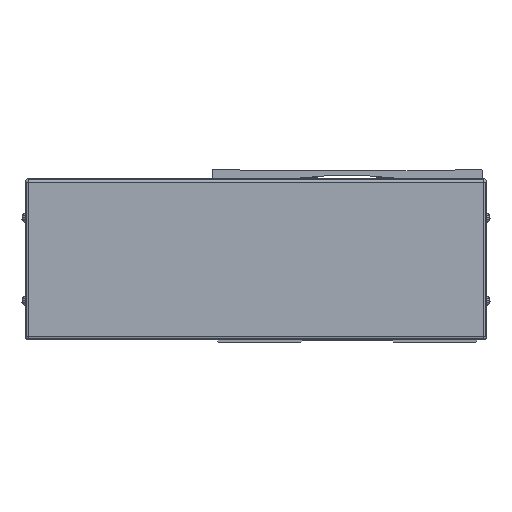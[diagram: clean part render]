
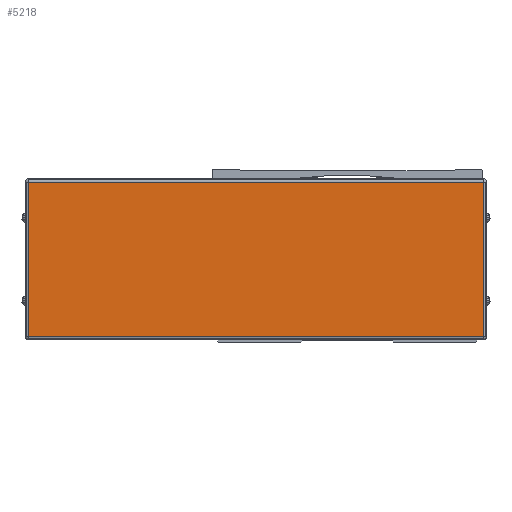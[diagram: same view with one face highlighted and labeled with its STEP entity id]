
A CAD part, front view. The second image highlights one B-rep face of the part: STEP entity #5218.
In plain terms, the highlighted planar face has unit normal (0, -1, 0).
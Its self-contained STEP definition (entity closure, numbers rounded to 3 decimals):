
#5218=ADVANCED_FACE('',(#11599),#11600,.F.);
#11599=FACE_OUTER_BOUND('',#20633,.T.);
#11600=PLANE('',#20634);
#20633=EDGE_LOOP('',(#36662,#36663,#36664,#36665));
#20634=AXIS2_PLACEMENT_3D('',#36666,#36667,#36668);
#36662=ORIENTED_EDGE('',*,*,#53781,.T.);
#36663=ORIENTED_EDGE('',*,*,#54082,.T.);
#36664=ORIENTED_EDGE('',*,*,#54083,.T.);
#36665=ORIENTED_EDGE('',*,*,#54084,.T.);
#36666=CARTESIAN_POINT('',(-655.,127.222,-2.));
#36667=DIRECTION('',(0.,1.0,0.));
#36668=DIRECTION('',(-1.0,0.,0.));
#53781=EDGE_CURVE('',#66224,#63520,#66225,.T.);
#54082=EDGE_CURVE('',#63520,#66619,#66620,.T.);
#54083=EDGE_CURVE('',#66619,#61876,#66621,.T.);
#54084=EDGE_CURVE('',#61876,#66224,#66622,.T.);
#61876=VERTEX_POINT('',#77281);
#63520=VERTEX_POINT('',#79759);
#66224=VERTEX_POINT('',#83779);
#66225=LINE('',#83780,#83781);
#66619=VERTEX_POINT('',#84354);
#66620=LINE('',#84355,#84356);
#66621=LINE('',#84357,#84358);
#66622=LINE('',#84359,#84360);
#77281=CARTESIAN_POINT('',(-517.9,127.222,-48.5));
#79759=CARTESIAN_POINT('',(-792.1,127.222,44.5));
#83779=CARTESIAN_POINT('',(-517.9,127.222,44.5));
#83780=CARTESIAN_POINT('',(-655.,127.222,44.5));
#83781=VECTOR('',#96176,10.0);
#84354=CARTESIAN_POINT('',(-792.1,127.222,-48.5));
#84355=CARTESIAN_POINT('',(-792.1,127.222,-2.));
#84356=VECTOR('',#96502,10.0);
#84357=CARTESIAN_POINT('',(-655.,127.222,-48.5));
#84358=VECTOR('',#96503,10.0);
#84359=CARTESIAN_POINT('',(-517.9,127.222,-2.));
#84360=VECTOR('',#96504,10.0);
#96176=DIRECTION('',(-1.0,0.,0.));
#96502=DIRECTION('',(0.,0.,-1.0));
#96503=DIRECTION('',(1.0,0.,0.));
#96504=DIRECTION('',(0.,0.,1.0));
